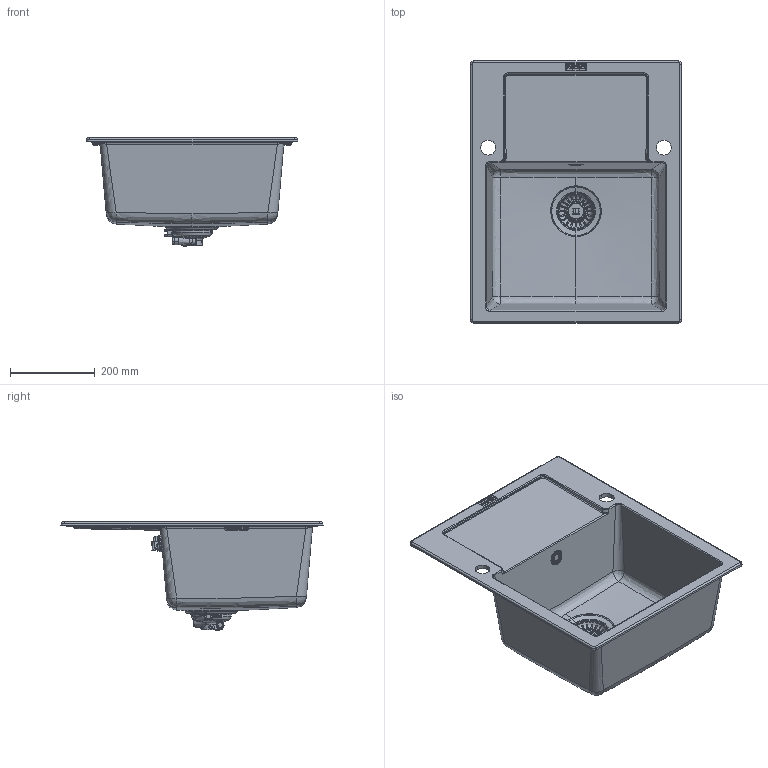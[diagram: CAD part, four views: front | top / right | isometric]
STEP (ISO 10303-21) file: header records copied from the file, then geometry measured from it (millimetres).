
FILE_DESCRIPTION(/* description */ (''),/* implementation_level */ '2;1');
FILE_NAME(/* name */ '3D001_Sinks_Maris_MRG-611-62',/* time_stamp */ '2024-07-30T16:04:29+02:00',/* author */ (''),/* organization */ (''),/* preprocessor_version */ 'ST-DEVELOPER v19.2',/* originating_system */ 'Rhino 8.8',/* authorisation */ '');
FILE_SCHEMA (('CONFIG_CONTROL_DESIGN'));
Products named in the file (1): Document
Bounding box: 500 x 620 x 255.9 mm (x, y, z)
Surface area: 1204842.2 mm2
Topology: 28 solids, 35 shells, 3803 faces, 10096 edges, 6367 vertices
Faces by surface type: plane 1548, bspline 1332, cylinder 923
Full cylindrical faces by diameter (mm): 4.5 x1
Entity records: 182045 total; most frequent: CARTESIAN_POINT 78850, ORIENTED_EDGE 19998, EDGE_CURVE 10040, DIRECTION 7872, B_SPLINE_CURVE_WITH_KNOTS 7056, VERTEX_POINT 6369, AXIS2_PLACEMENT_3D 5171, EDGE_LOOP 4023
